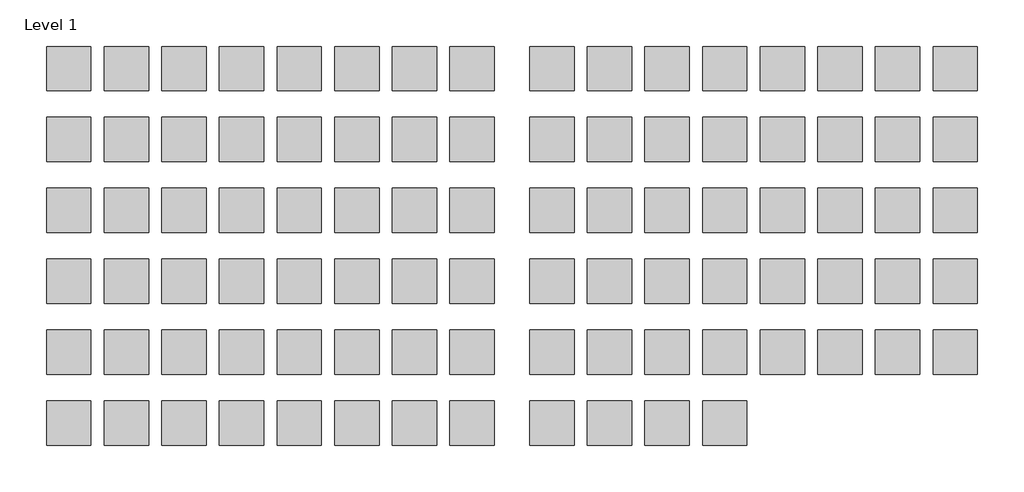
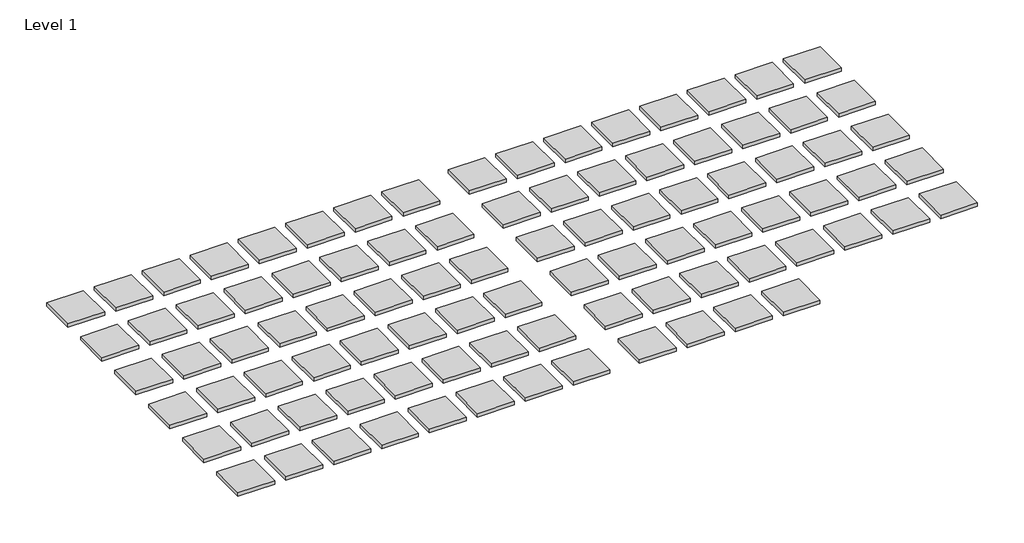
# One storey: 92 proxies.
"""IFC4 building model written with IfcOpenShell, lengths in millimetres."""

from ifc_helpers import new_model, si_unit, origin, place, context, project, spatial, transform, mapped, element, save
from components import generic_models_875eb390

model = new_model("IFC4")

# Units and contexts
model_context = context("Model", 3, world=origin())
ifc_project = project(units=[si_unit("LENGTHUNIT", "METRE", prefix="MILLI")], contexts=[model_context])

# Site, building, storey
site = spatial("IfcSite", under=ifc_project)
building = spatial("IfcBuilding", under=site)
storey = spatial("IfcBuildingStorey", under=building, Name="Level 1", Elevation=0.0)

# Proxies
placement = place(None, origin())
generic_models_shape = generic_models_875eb390(model_context)
element("IfcBuildingElementProxy", 1, Name="martela - material button : martela - material button", ObjectType="martela - material button : martela - material button", at=placement, inside=storey, context=model_context, shape_type="MappedRepresentation", body=[
    mapped(generic_models_shape, transform((1659.2592593, 6263.9834449, 0.0), x_axis=(1.0, 0.0, 0.0), y_axis=(0.0, 1.0, 0.0), z_axis=(0.0, 0.0, 1.0))),
])
element("IfcBuildingElementProxy", 2, Name="martela - material button : martela - material button", ObjectType="martela - material button : martela - material button", at=placement, inside=storey, context=model_context, shape_type="MappedRepresentation", body=[
    mapped(generic_models_shape, transform((2959.2592593, 6263.9834449, 0.0), x_axis=(1.0, 0.0, 0.0), y_axis=(0.0, 1.0, 0.0), z_axis=(0.0, 0.0, 1.0))),
])
element("IfcBuildingElementProxy", 3, Name="martela - material button : martela - material button", ObjectType="martela - material button : martela - material button", at=placement, inside=storey, context=model_context, shape_type="MappedRepresentation", body=[
    mapped(generic_models_shape, transform((4259.2592593, 6263.9834449, 0.0), x_axis=(1.0, 0.0, 0.0), y_axis=(0.0, 1.0, 0.0), z_axis=(0.0, 0.0, 1.0))),
])
element("IfcBuildingElementProxy", 4, Name="martela - material button : martela - material button", ObjectType="martela - material button : martela - material button", at=placement, inside=storey, context=model_context, shape_type="MappedRepresentation", body=[
    mapped(generic_models_shape, transform((6859.2592593, 6263.9834449, 0.0), x_axis=(1.0, 0.0, 0.0), y_axis=(0.0, 1.0, 0.0), z_axis=(0.0, 0.0, 1.0))),
])
element("IfcBuildingElementProxy", 5, Name="martela - material button : martela - material button", ObjectType="martela - material button : martela - material button", at=placement, inside=storey, context=model_context, shape_type="MappedRepresentation", body=[
    mapped(generic_models_shape, transform((5559.2592593, 6263.9834449, 0.0), x_axis=(1.0, 0.0, 0.0), y_axis=(0.0, 1.0, 0.0), z_axis=(0.0, 0.0, 1.0))),
])
element("IfcBuildingElementProxy", 6, Name="martela - material button : martela - material button", ObjectType="martela - material button : martela - material button", at=placement, inside=storey, context=model_context, shape_type="MappedRepresentation", body=[
    mapped(generic_models_shape, transform((8159.2592593, 6263.9834449, 0.0), x_axis=(1.0, 0.0, 0.0), y_axis=(0.0, 1.0, 0.0), z_axis=(0.0, 0.0, 1.0))),
])
element("IfcBuildingElementProxy", 7, Name="martela - material button : martela - material button", ObjectType="martela - material button : martela - material button", at=placement, inside=storey, context=model_context, shape_type="MappedRepresentation", body=[
    mapped(generic_models_shape, transform((9459.2592593, 6263.9834449, 0.0), x_axis=(1.0, 0.0, 0.0), y_axis=(0.0, 1.0, 0.0), z_axis=(0.0, 0.0, 1.0))),
])
element("IfcBuildingElementProxy", 8, Name="martela - material button : martela - material button", ObjectType="martela - material button : martela - material button", at=placement, inside=storey, context=model_context, shape_type="MappedRepresentation", body=[
    mapped(generic_models_shape, transform((10759.2592593, 6263.9834449, 0.0), x_axis=(1.0, 0.0, 0.0), y_axis=(0.0, 1.0, 0.0), z_axis=(0.0, 0.0, 1.0))),
])
element("IfcBuildingElementProxy", 9, Name="martela - material button : martela - material button", ObjectType="martela - material button : martela - material button", at=placement, inside=storey, context=model_context, shape_type="MappedRepresentation", body=[
    mapped(generic_models_shape, transform((1659.2592593, 4663.9834449, 0.0), x_axis=(1.0, 0.0, 0.0), y_axis=(0.0, 1.0, 0.0), z_axis=(0.0, 0.0, 1.0))),
])
element("IfcBuildingElementProxy", 10, Name="martela - material button : martela - material button", ObjectType="martela - material button : martela - material button", at=placement, inside=storey, context=model_context, shape_type="MappedRepresentation", body=[
    mapped(generic_models_shape, transform((2959.2592593, 4663.9834449, 0.0), x_axis=(1.0, 0.0, 0.0), y_axis=(0.0, 1.0, 0.0), z_axis=(0.0, 0.0, 1.0))),
])
element("IfcBuildingElementProxy", 11, Name="martela - material button : martela - material button", ObjectType="martela - material button : martela - material button", at=placement, inside=storey, context=model_context, shape_type="MappedRepresentation", body=[
    mapped(generic_models_shape, transform((4259.2592593, 4663.9834449, 0.0), x_axis=(1.0, 0.0, 0.0), y_axis=(0.0, 1.0, 0.0), z_axis=(0.0, 0.0, 1.0))),
])
element("IfcBuildingElementProxy", 12, Name="martela - material button : martela - material button", ObjectType="martela - material button : martela - material button", at=placement, inside=storey, context=model_context, shape_type="MappedRepresentation", body=[
    mapped(generic_models_shape, transform((5559.2592593, 4663.9834449, 0.0), x_axis=(1.0, 0.0, 0.0), y_axis=(0.0, 1.0, 0.0), z_axis=(0.0, 0.0, 1.0))),
])
element("IfcBuildingElementProxy", 13, Name="martela - material button : martela - material button", ObjectType="martela - material button : martela - material button", at=placement, inside=storey, context=model_context, shape_type="MappedRepresentation", body=[
    mapped(generic_models_shape, transform((6859.2592593, 4663.9834449, 0.0), x_axis=(1.0, 0.0, 0.0), y_axis=(0.0, 1.0, 0.0), z_axis=(0.0, 0.0, 1.0))),
])
element("IfcBuildingElementProxy", 14, Name="martela - material button : martela - material button", ObjectType="martela - material button : martela - material button", at=placement, inside=storey, context=model_context, shape_type="MappedRepresentation", body=[
    mapped(generic_models_shape, transform((8159.2592593, 4663.9834449, 0.0), x_axis=(1.0, 0.0, 0.0), y_axis=(0.0, 1.0, 0.0), z_axis=(0.0, 0.0, 1.0))),
])
element("IfcBuildingElementProxy", 15, Name="martela - material button : martela - material button", ObjectType="martela - material button : martela - material button", at=placement, inside=storey, context=model_context, shape_type="MappedRepresentation", body=[
    mapped(generic_models_shape, transform((9459.2592593, 4663.9834449, 0.0), x_axis=(1.0, 0.0, 0.0), y_axis=(0.0, 1.0, 0.0), z_axis=(0.0, 0.0, 1.0))),
])
element("IfcBuildingElementProxy", 16, Name="martela - material button : martela - material button", ObjectType="martela - material button : martela - material button", at=placement, inside=storey, context=model_context, shape_type="MappedRepresentation", body=[
    mapped(generic_models_shape, transform((10759.2592593, 4663.9834449, 0.0), x_axis=(1.0, 0.0, 0.0), y_axis=(0.0, 1.0, 0.0), z_axis=(0.0, 0.0, 1.0))),
])
element("IfcBuildingElementProxy", 17, Name="martela - material button : martela - material button", ObjectType="martela - material button : martela - material button", at=placement, inside=storey, context=model_context, shape_type="MappedRepresentation", body=[
    mapped(generic_models_shape, transform((1659.2592593, 3063.9834449, 0.0), x_axis=(1.0, 0.0, 0.0), y_axis=(0.0, 1.0, 0.0), z_axis=(0.0, 0.0, 1.0))),
])
element("IfcBuildingElementProxy", 18, Name="martela - material button : martela - material button", ObjectType="martela - material button : martela - material button", at=placement, inside=storey, context=model_context, shape_type="MappedRepresentation", body=[
    mapped(generic_models_shape, transform((2959.2592593, 3063.9834449, 0.0), x_axis=(1.0, 0.0, 0.0), y_axis=(0.0, 1.0, 0.0), z_axis=(0.0, 0.0, 1.0))),
])
element("IfcBuildingElementProxy", 19, Name="martela - material button : martela - material button", ObjectType="martela - material button : martela - material button", at=placement, inside=storey, context=model_context, shape_type="MappedRepresentation", body=[
    mapped(generic_models_shape, transform((4259.2592593, 3063.9834449, 0.0), x_axis=(1.0, 0.0, 0.0), y_axis=(0.0, 1.0, 0.0), z_axis=(0.0, 0.0, 1.0))),
])
element("IfcBuildingElementProxy", 20, Name="martela - material button : martela - material button", ObjectType="martela - material button : martela - material button", at=placement, inside=storey, context=model_context, shape_type="MappedRepresentation", body=[
    mapped(generic_models_shape, transform((5559.2592593, 3063.9834449, 0.0), x_axis=(1.0, 0.0, 0.0), y_axis=(0.0, 1.0, 0.0), z_axis=(0.0, 0.0, 1.0))),
])
element("IfcBuildingElementProxy", 21, Name="martela - material button : martela - material button", ObjectType="martela - material button : martela - material button", at=placement, inside=storey, context=model_context, shape_type="MappedRepresentation", body=[
    mapped(generic_models_shape, transform((6859.2592593, 3063.9834449, 0.0), x_axis=(1.0, 0.0, 0.0), y_axis=(0.0, 1.0, 0.0), z_axis=(0.0, 0.0, 1.0))),
])
element("IfcBuildingElementProxy", 22, Name="martela - material button : martela - material button", ObjectType="martela - material button : martela - material button", at=placement, inside=storey, context=model_context, shape_type="MappedRepresentation", body=[
    mapped(generic_models_shape, transform((8159.2592593, 3063.9834449, 0.0), x_axis=(1.0, 0.0, 0.0), y_axis=(0.0, 1.0, 0.0), z_axis=(0.0, 0.0, 1.0))),
])
element("IfcBuildingElementProxy", 23, Name="martela - material button : martela - material button", ObjectType="martela - material button : martela - material button", at=placement, inside=storey, context=model_context, shape_type="MappedRepresentation", body=[
    mapped(generic_models_shape, transform((9459.2592593, 3063.9834449, 0.0), x_axis=(1.0, 0.0, 0.0), y_axis=(0.0, 1.0, 0.0), z_axis=(0.0, 0.0, 1.0))),
])
element("IfcBuildingElementProxy", 24, Name="martela - material button : martela - material button", ObjectType="martela - material button : martela - material button", at=placement, inside=storey, context=model_context, shape_type="MappedRepresentation", body=[
    mapped(generic_models_shape, transform((10759.2592593, 3063.9834449, 0.0), x_axis=(1.0, 0.0, 0.0), y_axis=(0.0, 1.0, 0.0), z_axis=(0.0, 0.0, 1.0))),
])
element("IfcBuildingElementProxy", 25, Name="martela - material button : martela - material button", ObjectType="martela - material button : martela - material button", at=placement, inside=storey, context=model_context, shape_type="MappedRepresentation", body=[
    mapped(generic_models_shape, transform((5559.2592593, 1463.9834449, 0.0), x_axis=(1.0, 0.0, 0.0), y_axis=(0.0, 1.0, 0.0), z_axis=(0.0, 0.0, 1.0))),
])
element("IfcBuildingElementProxy", 26, Name="martela - material button : martela - material button", ObjectType="martela - material button : martela - material button", at=placement, inside=storey, context=model_context, shape_type="MappedRepresentation", body=[
    mapped(generic_models_shape, transform((1659.2592593, 1463.9834449, 0.0), x_axis=(1.0, 0.0, 0.0), y_axis=(0.0, 1.0, 0.0), z_axis=(0.0, 0.0, 1.0))),
])
element("IfcBuildingElementProxy", 27, Name="martela - material button : martela - material button", ObjectType="martela - material button : martela - material button", at=placement, inside=storey, context=model_context, shape_type="MappedRepresentation", body=[
    mapped(generic_models_shape, transform((2959.2592593, 1463.9834449, 0.0), x_axis=(1.0, 0.0, 0.0), y_axis=(0.0, 1.0, 0.0), z_axis=(0.0, 0.0, 1.0))),
])
element("IfcBuildingElementProxy", 28, Name="martela - material button : martela - material button", ObjectType="martela - material button : martela - material button", at=placement, inside=storey, context=model_context, shape_type="MappedRepresentation", body=[
    mapped(generic_models_shape, transform((4259.2592593, 1463.9834449, 0.0), x_axis=(1.0, 0.0, 0.0), y_axis=(0.0, 1.0, 0.0), z_axis=(0.0, 0.0, 1.0))),
])
element("IfcBuildingElementProxy", 29, Name="martela - material button : martela - material button", ObjectType="martela - material button : martela - material button", at=placement, inside=storey, context=model_context, shape_type="MappedRepresentation", body=[
    mapped(generic_models_shape, transform((6859.2592593, 1463.9834449, 0.0), x_axis=(1.0, 0.0, 0.0), y_axis=(0.0, 1.0, 0.0), z_axis=(0.0, 0.0, 1.0))),
])
element("IfcBuildingElementProxy", 30, Name="martela - material button : martela - material button", ObjectType="martela - material button : martela - material button", at=placement, inside=storey, context=model_context, shape_type="MappedRepresentation", body=[
    mapped(generic_models_shape, transform((8159.2592593, 1463.9834449, 0.0), x_axis=(1.0, 0.0, 0.0), y_axis=(0.0, 1.0, 0.0), z_axis=(0.0, 0.0, 1.0))),
])
element("IfcBuildingElementProxy", 31, Name="martela - material button : martela - material button", ObjectType="martela - material button : martela - material button", at=placement, inside=storey, context=model_context, shape_type="MappedRepresentation", body=[
    mapped(generic_models_shape, transform((9459.2592593, 1463.9834449, 0.0), x_axis=(1.0, 0.0, 0.0), y_axis=(0.0, 1.0, 0.0), z_axis=(0.0, 0.0, 1.0))),
])
element("IfcBuildingElementProxy", 32, Name="martela - material button : martela - material button", ObjectType="martela - material button : martela - material button", at=placement, inside=storey, context=model_context, shape_type="MappedRepresentation", body=[
    mapped(generic_models_shape, transform((5559.2592593, -136.0165551, 0.0), x_axis=(1.0, 0.0, 0.0), y_axis=(0.0, 1.0, 0.0), z_axis=(0.0, 0.0, 1.0))),
])
element("IfcBuildingElementProxy", 33, Name="martela - material button : martela - material button", ObjectType="martela - material button : martela - material button", at=placement, inside=storey, context=model_context, shape_type="MappedRepresentation", body=[
    mapped(generic_models_shape, transform((10759.2592593, 1463.9834449, 0.0), x_axis=(1.0, 0.0, 0.0), y_axis=(0.0, 1.0, 0.0), z_axis=(0.0, 0.0, 1.0))),
])
element("IfcBuildingElementProxy", 34, Name="martela - material button : martela - material button", ObjectType="martela - material button : martela - material button", at=placement, inside=storey, context=model_context, shape_type="MappedRepresentation", body=[
    mapped(generic_models_shape, transform((2959.2592593, -136.0165551, 0.0), x_axis=(1.0, 0.0, 0.0), y_axis=(0.0, 1.0, 0.0), z_axis=(0.0, 0.0, 1.0))),
])
element("IfcBuildingElementProxy", 35, Name="martela - material button : martela - material button", ObjectType="martela - material button : martela - material button", at=placement, inside=storey, context=model_context, shape_type="MappedRepresentation", body=[
    mapped(generic_models_shape, transform((4259.2592593, -136.0165551, 0.0), x_axis=(1.0, 0.0, 0.0), y_axis=(0.0, 1.0, 0.0), z_axis=(0.0, 0.0, 1.0))),
])
element("IfcBuildingElementProxy", 36, Name="martela - material button : martela - material button", ObjectType="martela - material button : martela - material button", at=placement, inside=storey, context=model_context, shape_type="MappedRepresentation", body=[
    mapped(generic_models_shape, transform((6859.2592593, -136.0165551, 0.0), x_axis=(1.0, 0.0, 0.0), y_axis=(0.0, 1.0, 0.0), z_axis=(0.0, 0.0, 1.0))),
])
element("IfcBuildingElementProxy", 37, Name="martela - material button : martela - material button", ObjectType="martela - material button : martela - material button", at=placement, inside=storey, context=model_context, shape_type="MappedRepresentation", body=[
    mapped(generic_models_shape, transform((8159.2592593, -136.0165551, 0.0), x_axis=(1.0, 0.0, 0.0), y_axis=(0.0, 1.0, 0.0), z_axis=(0.0, 0.0, 1.0))),
])
element("IfcBuildingElementProxy", 38, Name="martela - material button : martela - material button", ObjectType="martela - material button : martela - material button", at=placement, inside=storey, context=model_context, shape_type="MappedRepresentation", body=[
    mapped(generic_models_shape, transform((9459.2592593, -136.0165551, 0.0), x_axis=(1.0, 0.0, 0.0), y_axis=(0.0, 1.0, 0.0), z_axis=(0.0, 0.0, 1.0))),
])
element("IfcBuildingElementProxy", 39, Name="martela - material button : martela - material button", ObjectType="martela - material button : martela - material button", at=placement, inside=storey, context=model_context, shape_type="MappedRepresentation", body=[
    mapped(generic_models_shape, transform((1659.2592593, -136.0165551, 0.0), x_axis=(1.0, 0.0, 0.0), y_axis=(0.0, 1.0, 0.0), z_axis=(0.0, 0.0, 1.0))),
])
element("IfcBuildingElementProxy", 40, Name="martela - material button : martela - material button", ObjectType="martela - material button : martela - material button", at=placement, inside=storey, context=model_context, shape_type="MappedRepresentation", body=[
    mapped(generic_models_shape, transform((6859.2592593, -1736.0165551, 0.0), x_axis=(1.0, 0.0, 0.0), y_axis=(0.0, 1.0, 0.0), z_axis=(0.0, 0.0, 1.0))),
])
element("IfcBuildingElementProxy", 41, Name="martela - material button : martela - material button", ObjectType="martela - material button : martela - material button", at=placement, inside=storey, context=model_context, shape_type="MappedRepresentation", body=[
    mapped(generic_models_shape, transform((10759.2592593, -136.0165551, 0.0), x_axis=(1.0, 0.0, 0.0), y_axis=(0.0, 1.0, 0.0), z_axis=(0.0, 0.0, 1.0))),
])
element("IfcBuildingElementProxy", 42, Name="martela - material button : martela - material button", ObjectType="martela - material button : martela - material button", at=placement, inside=storey, context=model_context, shape_type="MappedRepresentation", body=[
    mapped(generic_models_shape, transform((1659.2592593, -1736.0165551, 0.0), x_axis=(1.0, 0.0, 0.0), y_axis=(0.0, 1.0, 0.0), z_axis=(0.0, 0.0, 1.0))),
])
element("IfcBuildingElementProxy", 43, Name="martela - material button : martela - material button", ObjectType="martela - material button : martela - material button", at=placement, inside=storey, context=model_context, shape_type="MappedRepresentation", body=[
    mapped(generic_models_shape, transform((2959.2592593, -1736.0165551, 0.0), x_axis=(1.0, 0.0, 0.0), y_axis=(0.0, 1.0, 0.0), z_axis=(0.0, 0.0, 1.0))),
])
element("IfcBuildingElementProxy", 44, Name="martela - material button : martela - material button", ObjectType="martela - material button : martela - material button", at=placement, inside=storey, context=model_context, shape_type="MappedRepresentation", body=[
    mapped(generic_models_shape, transform((4259.2592593, -1736.0165551, 0.0), x_axis=(1.0, 0.0, 0.0), y_axis=(0.0, 1.0, 0.0), z_axis=(0.0, 0.0, 1.0))),
])
element("IfcBuildingElementProxy", 45, Name="martela - material button : martela - material button", ObjectType="martela - material button : martela - material button", at=placement, inside=storey, context=model_context, shape_type="MappedRepresentation", body=[
    mapped(generic_models_shape, transform((5559.2592593, -1736.0165551, 0.0), x_axis=(1.0, 0.0, 0.0), y_axis=(0.0, 1.0, 0.0), z_axis=(0.0, 0.0, 1.0))),
])
element("IfcBuildingElementProxy", 46, Name="martela - material button : martela - material button", ObjectType="martela - material button : martela - material button", at=placement, inside=storey, context=model_context, shape_type="MappedRepresentation", body=[
    mapped(generic_models_shape, transform((8159.2592593, -1736.0165551, 0.0), x_axis=(1.0, 0.0, 0.0), y_axis=(0.0, 1.0, 0.0), z_axis=(0.0, 0.0, 1.0))),
])
element("IfcBuildingElementProxy", 47, Name="martela - material button : martela - material button", ObjectType="martela - material button : martela - material button", at=placement, inside=storey, context=model_context, shape_type="MappedRepresentation", body=[
    mapped(generic_models_shape, transform((16459.2592593, 6263.9834449, 0.0), x_axis=(1.0, 0.0, 0.0), y_axis=(0.0, 1.0, 0.0), z_axis=(0.0, 0.0, 1.0))),
])
element("IfcBuildingElementProxy", 48, Name="martela - material button : martela - material button", ObjectType="martela - material button : martela - material button", at=placement, inside=storey, context=model_context, shape_type="MappedRepresentation", body=[
    mapped(generic_models_shape, transform((10759.2592593, -1736.0165551, 0.0), x_axis=(1.0, 0.0, 0.0), y_axis=(0.0, 1.0, 0.0), z_axis=(0.0, 0.0, 1.0))),
])
element("IfcBuildingElementProxy", 49, Name="martela - material button : martela - material button", ObjectType="martela - material button : martela - material button", at=placement, inside=storey, context=model_context, shape_type="MappedRepresentation", body=[
    mapped(generic_models_shape, transform((9459.2592593, -1736.0165551, 0.0), x_axis=(1.0, 0.0, 0.0), y_axis=(0.0, 1.0, 0.0), z_axis=(0.0, 0.0, 1.0))),
])
element("IfcBuildingElementProxy", 50, Name="martela - material button : martela - material button", ObjectType="martela - material button : martela - material button", at=placement, inside=storey, context=model_context, shape_type="MappedRepresentation", body=[
    mapped(generic_models_shape, transform((12559.2592593, 6263.9834449, 0.0), x_axis=(1.0, 0.0, 0.0), y_axis=(0.0, 1.0, 0.0), z_axis=(0.0, 0.0, 1.0))),
])
element("IfcBuildingElementProxy", 51, Name="martela - material button : martela - material button", ObjectType="martela - material button : martela - material button", at=placement, inside=storey, context=model_context, shape_type="MappedRepresentation", body=[
    mapped(generic_models_shape, transform((13859.2592593, 6263.9834449, 0.0), x_axis=(1.0, 0.0, 0.0), y_axis=(0.0, 1.0, 0.0), z_axis=(0.0, 0.0, 1.0))),
])
element("IfcBuildingElementProxy", 52, Name="martela - material button : martela - material button", ObjectType="martela - material button : martela - material button", at=placement, inside=storey, context=model_context, shape_type="MappedRepresentation", body=[
    mapped(generic_models_shape, transform((15159.2592593, 6263.9834449, 0.0), x_axis=(1.0, 0.0, 0.0), y_axis=(0.0, 1.0, 0.0), z_axis=(0.0, 0.0, 1.0))),
])
element("IfcBuildingElementProxy", 53, Name="martela - material button : martela - material button", ObjectType="martela - material button : martela - material button", at=placement, inside=storey, context=model_context, shape_type="MappedRepresentation", body=[
    mapped(generic_models_shape, transform((19059.2592593, 6263.9834449, 0.0), x_axis=(1.0, 0.0, 0.0), y_axis=(0.0, 1.0, 0.0), z_axis=(0.0, 0.0, 1.0))),
])
element("IfcBuildingElementProxy", 54, Name="martela - material button : martela - material button", ObjectType="martela - material button : martela - material button", at=placement, inside=storey, context=model_context, shape_type="MappedRepresentation", body=[
    mapped(generic_models_shape, transform((20359.2592593, 6263.9834449, 0.0), x_axis=(1.0, 0.0, 0.0), y_axis=(0.0, 1.0, 0.0), z_axis=(0.0, 0.0, 1.0))),
])
element("IfcBuildingElementProxy", 55, Name="martela - material button : martela - material button", ObjectType="martela - material button : martela - material button", at=placement, inside=storey, context=model_context, shape_type="MappedRepresentation", body=[
    mapped(generic_models_shape, transform((17759.2592593, 6263.9834449, 0.0), x_axis=(1.0, 0.0, 0.0), y_axis=(0.0, 1.0, 0.0), z_axis=(0.0, 0.0, 1.0))),
])
element("IfcBuildingElementProxy", 56, Name="martela - material button : martela - material button", ObjectType="martela - material button : martela - material button", at=placement, inside=storey, context=model_context, shape_type="MappedRepresentation", body=[
    mapped(generic_models_shape, transform((17759.2592593, 4663.9834449, 0.0), x_axis=(1.0, 0.0, 0.0), y_axis=(0.0, 1.0, 0.0), z_axis=(0.0, 0.0, 1.0))),
])
element("IfcBuildingElementProxy", 57, Name="martela - material button : martela - material button", ObjectType="martela - material button : martela - material button", at=placement, inside=storey, context=model_context, shape_type="MappedRepresentation", body=[
    mapped(generic_models_shape, transform((21659.2592593, 6263.9834449, 0.0), x_axis=(1.0, 0.0, 0.0), y_axis=(0.0, 1.0, 0.0), z_axis=(0.0, 0.0, 1.0))),
])
element("IfcBuildingElementProxy", 58, Name="martela - material button : martela - material button", ObjectType="martela - material button : martela - material button", at=placement, inside=storey, context=model_context, shape_type="MappedRepresentation", body=[
    mapped(generic_models_shape, transform((13859.2592593, 4663.9834449, 0.0), x_axis=(1.0, 0.0, 0.0), y_axis=(0.0, 1.0, 0.0), z_axis=(0.0, 0.0, 1.0))),
])
element("IfcBuildingElementProxy", 59, Name="martela - material button : martela - material button", ObjectType="martela - material button : martela - material button", at=placement, inside=storey, context=model_context, shape_type="MappedRepresentation", body=[
    mapped(generic_models_shape, transform((15159.2592593, 4663.9834449, 0.0), x_axis=(1.0, 0.0, 0.0), y_axis=(0.0, 1.0, 0.0), z_axis=(0.0, 0.0, 1.0))),
])
element("IfcBuildingElementProxy", 60, Name="martela - material button : martela - material button", ObjectType="martela - material button : martela - material button", at=placement, inside=storey, context=model_context, shape_type="MappedRepresentation", body=[
    mapped(generic_models_shape, transform((16459.2592593, 4663.9834449, 0.0), x_axis=(1.0, 0.0, 0.0), y_axis=(0.0, 1.0, 0.0), z_axis=(0.0, 0.0, 1.0))),
])
element("IfcBuildingElementProxy", 61, Name="martela - material button : martela - material button", ObjectType="martela - material button : martela - material button", at=placement, inside=storey, context=model_context, shape_type="MappedRepresentation", body=[
    mapped(generic_models_shape, transform((19059.2592593, 4663.9834449, 0.0), x_axis=(1.0, 0.0, 0.0), y_axis=(0.0, 1.0, 0.0), z_axis=(0.0, 0.0, 1.0))),
])
element("IfcBuildingElementProxy", 62, Name="martela - material button : martela - material button", ObjectType="martela - material button : martela - material button", at=placement, inside=storey, context=model_context, shape_type="MappedRepresentation", body=[
    mapped(generic_models_shape, transform((20359.2592593, 4663.9834449, 0.0), x_axis=(1.0, 0.0, 0.0), y_axis=(0.0, 1.0, 0.0), z_axis=(0.0, 0.0, 1.0))),
])
element("IfcBuildingElementProxy", 63, Name="martela - material button : martela - material button", ObjectType="martela - material button : martela - material button", at=placement, inside=storey, context=model_context, shape_type="MappedRepresentation", body=[
    mapped(generic_models_shape, transform((12559.2592593, 4663.9834449, 0.0), x_axis=(1.0, 0.0, 0.0), y_axis=(0.0, 1.0, 0.0), z_axis=(0.0, 0.0, 1.0))),
])
element("IfcBuildingElementProxy", 64, Name="martela - material button : martela - material button", ObjectType="martela - material button : martela - material button", at=placement, inside=storey, context=model_context, shape_type="MappedRepresentation", body=[
    mapped(generic_models_shape, transform((17759.2592593, 3063.9834449, 0.0), x_axis=(1.0, 0.0, 0.0), y_axis=(0.0, 1.0, 0.0), z_axis=(0.0, 0.0, 1.0))),
])
element("IfcBuildingElementProxy", 65, Name="martela - material button : martela - material button", ObjectType="martela - material button : martela - material button", at=placement, inside=storey, context=model_context, shape_type="MappedRepresentation", body=[
    mapped(generic_models_shape, transform((21659.2592593, 4663.9834449, 0.0), x_axis=(1.0, 0.0, 0.0), y_axis=(0.0, 1.0, 0.0), z_axis=(0.0, 0.0, 1.0))),
])
element("IfcBuildingElementProxy", 66, Name="martela - material button : martela - material button", ObjectType="martela - material button : martela - material button", at=placement, inside=storey, context=model_context, shape_type="MappedRepresentation", body=[
    mapped(generic_models_shape, transform((12559.2592593, 3063.9834449, 0.0), x_axis=(1.0, 0.0, 0.0), y_axis=(0.0, 1.0, 0.0), z_axis=(0.0, 0.0, 1.0))),
])
element("IfcBuildingElementProxy", 67, Name="martela - material button : martela - material button", ObjectType="martela - material button : martela - material button", at=placement, inside=storey, context=model_context, shape_type="MappedRepresentation", body=[
    mapped(generic_models_shape, transform((13859.2592593, 3063.9834449, 0.0), x_axis=(1.0, 0.0, 0.0), y_axis=(0.0, 1.0, 0.0), z_axis=(0.0, 0.0, 1.0))),
])
element("IfcBuildingElementProxy", 68, Name="martela - material button : martela - material button", ObjectType="martela - material button : martela - material button", at=placement, inside=storey, context=model_context, shape_type="MappedRepresentation", body=[
    mapped(generic_models_shape, transform((15159.2592593, 3063.9834449, 0.0), x_axis=(1.0, 0.0, 0.0), y_axis=(0.0, 1.0, 0.0), z_axis=(0.0, 0.0, 1.0))),
])
element("IfcBuildingElementProxy", 69, Name="martela - material button : martela - material button", ObjectType="martela - material button : martela - material button", at=placement, inside=storey, context=model_context, shape_type="MappedRepresentation", body=[
    mapped(generic_models_shape, transform((16459.2592593, 3063.9834449, 0.0), x_axis=(1.0, 0.0, 0.0), y_axis=(0.0, 1.0, 0.0), z_axis=(0.0, 0.0, 1.0))),
])
element("IfcBuildingElementProxy", 70, Name="martela - material button : martela - material button", ObjectType="martela - material button : martela - material button", at=placement, inside=storey, context=model_context, shape_type="MappedRepresentation", body=[
    mapped(generic_models_shape, transform((19059.2592593, 3063.9834449, 0.0), x_axis=(1.0, 0.0, 0.0), y_axis=(0.0, 1.0, 0.0), z_axis=(0.0, 0.0, 1.0))),
])
element("IfcBuildingElementProxy", 71, Name="martela - material button : martela - material button", ObjectType="martela - material button : martela - material button", at=placement, inside=storey, context=model_context, shape_type="MappedRepresentation", body=[
    mapped(generic_models_shape, transform((20359.2592593, 3063.9834449, 0.0), x_axis=(1.0, 0.0, 0.0), y_axis=(0.0, 1.0, 0.0), z_axis=(0.0, 0.0, 1.0))),
])
element("IfcBuildingElementProxy", 72, Name="martela - material button : martela - material button", ObjectType="martela - material button : martela - material button", at=placement, inside=storey, context=model_context, shape_type="MappedRepresentation", body=[
    mapped(generic_models_shape, transform((17759.2592593, 1463.9834449, 0.0), x_axis=(1.0, 0.0, 0.0), y_axis=(0.0, 1.0, 0.0), z_axis=(0.0, 0.0, 1.0))),
])
element("IfcBuildingElementProxy", 73, Name="martela - material button : martela - material button", ObjectType="martela - material button : martela - material button", at=placement, inside=storey, context=model_context, shape_type="MappedRepresentation", body=[
    mapped(generic_models_shape, transform((21659.2592593, 3063.9834449, 0.0), x_axis=(1.0, 0.0, 0.0), y_axis=(0.0, 1.0, 0.0), z_axis=(0.0, 0.0, 1.0))),
])
element("IfcBuildingElementProxy", 74, Name="martela - material button : martela - material button", ObjectType="martela - material button : martela - material button", at=placement, inside=storey, context=model_context, shape_type="MappedRepresentation", body=[
    mapped(generic_models_shape, transform((12559.2592593, 1463.9834449, 0.0), x_axis=(1.0, 0.0, 0.0), y_axis=(0.0, 1.0, 0.0), z_axis=(0.0, 0.0, 1.0))),
])
element("IfcBuildingElementProxy", 75, Name="martela - material button : martela - material button", ObjectType="martela - material button : martela - material button", at=placement, inside=storey, context=model_context, shape_type="MappedRepresentation", body=[
    mapped(generic_models_shape, transform((13859.2592593, 1463.9834449, 0.0), x_axis=(1.0, 0.0, 0.0), y_axis=(0.0, 1.0, 0.0), z_axis=(0.0, 0.0, 1.0))),
])
element("IfcBuildingElementProxy", 76, Name="martela - material button : martela - material button", ObjectType="martela - material button : martela - material button", at=placement, inside=storey, context=model_context, shape_type="MappedRepresentation", body=[
    mapped(generic_models_shape, transform((15159.2592593, 1463.9834449, 0.0), x_axis=(1.0, 0.0, 0.0), y_axis=(0.0, 1.0, 0.0), z_axis=(0.0, 0.0, 1.0))),
])
element("IfcBuildingElementProxy", 77, Name="martela - material button : martela - material button", ObjectType="martela - material button : martela - material button", at=placement, inside=storey, context=model_context, shape_type="MappedRepresentation", body=[
    mapped(generic_models_shape, transform((16459.2592593, 1463.9834449, 0.0), x_axis=(1.0, 0.0, 0.0), y_axis=(0.0, 1.0, 0.0), z_axis=(0.0, 0.0, 1.0))),
])
element("IfcBuildingElementProxy", 78, Name="martela - material button : martela - material button", ObjectType="martela - material button : martela - material button", at=placement, inside=storey, context=model_context, shape_type="MappedRepresentation", body=[
    mapped(generic_models_shape, transform((19059.2592593, 1463.9834449, 0.0), x_axis=(1.0, 0.0, 0.0), y_axis=(0.0, 1.0, 0.0), z_axis=(0.0, 0.0, 1.0))),
])
element("IfcBuildingElementProxy", 79, Name="martela - material button : martela - material button", ObjectType="martela - material button : martela - material button", at=placement, inside=storey, context=model_context, shape_type="MappedRepresentation", body=[
    mapped(generic_models_shape, transform((20359.2592593, 1463.9834449, 0.0), x_axis=(1.0, 0.0, 0.0), y_axis=(0.0, 1.0, 0.0), z_axis=(0.0, 0.0, 1.0))),
])
element("IfcBuildingElementProxy", 80, Name="martela - material button : martela - material button", ObjectType="martela - material button : martela - material button", at=placement, inside=storey, context=model_context, shape_type="MappedRepresentation", body=[
    mapped(generic_models_shape, transform((17759.2592593, -136.0165551, 0.0), x_axis=(1.0, 0.0, 0.0), y_axis=(0.0, 1.0, 0.0), z_axis=(0.0, 0.0, 1.0))),
])
element("IfcBuildingElementProxy", 81, Name="martela - material button : martela - material button", ObjectType="martela - material button : martela - material button", at=placement, inside=storey, context=model_context, shape_type="MappedRepresentation", body=[
    mapped(generic_models_shape, transform((21659.2592593, 1463.9834449, 0.0), x_axis=(1.0, 0.0, 0.0), y_axis=(0.0, 1.0, 0.0), z_axis=(0.0, 0.0, 1.0))),
])
element("IfcBuildingElementProxy", 82, Name="martela - material button : martela - material button", ObjectType="martela - material button : martela - material button", at=placement, inside=storey, context=model_context, shape_type="MappedRepresentation", body=[
    mapped(generic_models_shape, transform((12559.2592593, -136.0165551, 0.0), x_axis=(1.0, 0.0, 0.0), y_axis=(0.0, 1.0, 0.0), z_axis=(0.0, 0.0, 1.0))),
])
element("IfcBuildingElementProxy", 83, Name="martela - material button : martela - material button", ObjectType="martela - material button : martela - material button", at=placement, inside=storey, context=model_context, shape_type="MappedRepresentation", body=[
    mapped(generic_models_shape, transform((13859.2592593, -136.0165551, 0.0), x_axis=(1.0, 0.0, 0.0), y_axis=(0.0, 1.0, 0.0), z_axis=(0.0, 0.0, 1.0))),
])
element("IfcBuildingElementProxy", 84, Name="martela - material button : martela - material button", ObjectType="martela - material button : martela - material button", at=placement, inside=storey, context=model_context, shape_type="MappedRepresentation", body=[
    mapped(generic_models_shape, transform((15159.2592593, -136.0165551, 0.0), x_axis=(1.0, 0.0, 0.0), y_axis=(0.0, 1.0, 0.0), z_axis=(0.0, 0.0, 1.0))),
])
element("IfcBuildingElementProxy", 85, Name="martela - material button : martela - material button", ObjectType="martela - material button : martela - material button", at=placement, inside=storey, context=model_context, shape_type="MappedRepresentation", body=[
    mapped(generic_models_shape, transform((16459.2592593, -136.0165551, 0.0), x_axis=(1.0, 0.0, 0.0), y_axis=(0.0, 1.0, 0.0), z_axis=(0.0, 0.0, 1.0))),
])
element("IfcBuildingElementProxy", 86, Name="martela - material button : martela - material button", ObjectType="martela - material button : martela - material button", at=placement, inside=storey, context=model_context, shape_type="MappedRepresentation", body=[
    mapped(generic_models_shape, transform((19059.2592593, -136.0165551, 0.0), x_axis=(1.0, 0.0, 0.0), y_axis=(0.0, 1.0, 0.0), z_axis=(0.0, 0.0, 1.0))),
])
element("IfcBuildingElementProxy", 87, Name="martela - material button : martela - material button", ObjectType="martela - material button : martela - material button", at=placement, inside=storey, context=model_context, shape_type="MappedRepresentation", body=[
    mapped(generic_models_shape, transform((20359.2592593, -136.0165551, 0.0), x_axis=(1.0, 0.0, 0.0), y_axis=(0.0, 1.0, 0.0), z_axis=(0.0, 0.0, 1.0))),
])
element("IfcBuildingElementProxy", 88, Name="martela - material button : martela - material button", ObjectType="martela - material button : martela - material button", at=placement, inside=storey, context=model_context, shape_type="MappedRepresentation", body=[
    mapped(generic_models_shape, transform((15159.2592593, -1736.0165551, 0.0), x_axis=(1.0, 0.0, 0.0), y_axis=(0.0, 1.0, 0.0), z_axis=(0.0, 0.0, 1.0))),
])
element("IfcBuildingElementProxy", 89, Name="martela - material button : martela - material button", ObjectType="martela - material button : martela - material button", at=placement, inside=storey, context=model_context, shape_type="MappedRepresentation", body=[
    mapped(generic_models_shape, transform((21659.2592593, -136.0165551, 0.0), x_axis=(1.0, 0.0, 0.0), y_axis=(0.0, 1.0, 0.0), z_axis=(0.0, 0.0, 1.0))),
])
element("IfcBuildingElementProxy", 90, Name="martela - material button : martela - material button", ObjectType="martela - material button : martela - material button", at=placement, inside=storey, context=model_context, shape_type="MappedRepresentation", body=[
    mapped(generic_models_shape, transform((12559.2592593, -1736.0165551, 0.0), x_axis=(1.0, 0.0, 0.0), y_axis=(0.0, 1.0, 0.0), z_axis=(0.0, 0.0, 1.0))),
])
element("IfcBuildingElementProxy", 91, Name="martela - material button : martela - material button", ObjectType="martela - material button : martela - material button", at=placement, inside=storey, context=model_context, shape_type="MappedRepresentation", body=[
    mapped(generic_models_shape, transform((13859.2592593, -1736.0165551, 0.0), x_axis=(1.0, 0.0, 0.0), y_axis=(0.0, 1.0, 0.0), z_axis=(0.0, 0.0, 1.0))),
])
element("IfcBuildingElementProxy", 92, Name="martela - material button : martela - material button", ObjectType="martela - material button : martela - material button", at=placement, inside=storey, context=model_context, shape_type="MappedRepresentation", body=[
    mapped(generic_models_shape, transform((16459.2592593, -1736.0165551, 0.0), x_axis=(1.0, 0.0, 0.0), y_axis=(0.0, 1.0, 0.0), z_axis=(0.0, 0.0, 1.0))),
])

save(model, "model.ifc")
